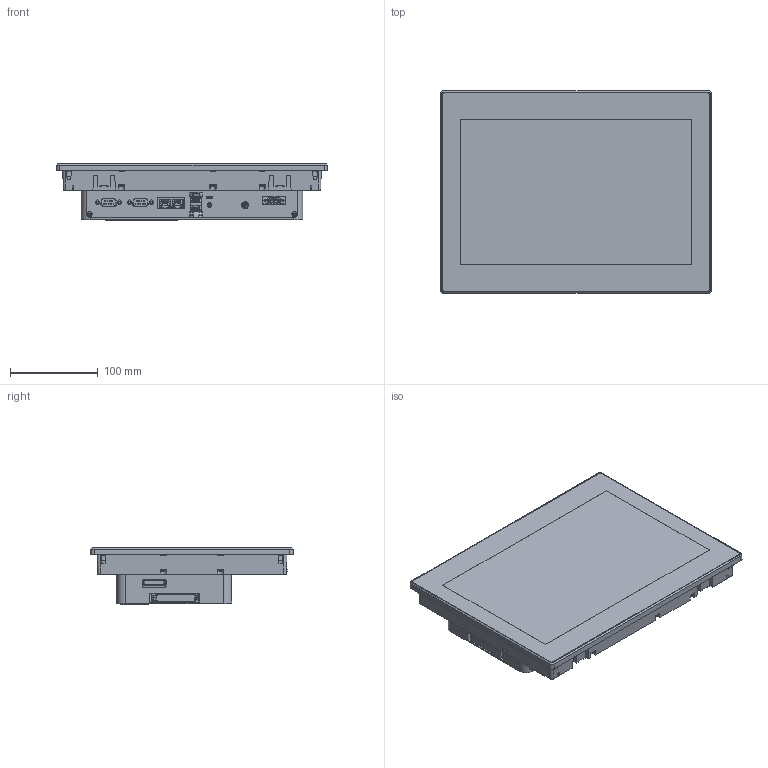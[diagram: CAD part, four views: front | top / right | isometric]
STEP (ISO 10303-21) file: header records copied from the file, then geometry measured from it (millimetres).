
FILE_DESCRIPTION(('STEP AP214'),'1');
FILE_NAME('HMI_12W_WXGA_DC_3D-simpl_TK_UPDATE.stp','2025-10-23T01:58:57',(' '),(' '),'Spatial InterOp 3D',' ',' ');
FILE_SCHEMA(('AUTOMOTIVE_DESIGN { 1 0 10303 214 1 1 1 1 }'));
Length unit declared in the file: metre
Products named in the file (5): HMI_12W_WXGA_DC_3D-simpl_TK_UPDATE; Component13; Component23; Component33
Assembly tree (4 placements, depth 3):
  HMI_12W_WXGA_DC_3D-simpl_TK_UPDATE
    HMI_12W_WXGA_DC_3D-simpl_TK_UPDATE
      Component13
      Component23
      Component33
Bounding box: 308.5 x 230.5 x 64.28 mm (x, y, z)
Volume: 2641365.8 mm3; surface area: 374446.3 mm2
Topology: 3 solids, 13 shells, 2866 faces, 7958 edges, 5193 vertices
Faces by surface type: plane 1661, cylinder 739, cone 214, bspline 162, torus 57, sphere 33
Full cylindrical faces by diameter (mm): 0.99 x18, 2.5 x4, 2.8 x2, 2.845 x4, 3 x11, 4 x4, 4.3 x4, 4.5 x1, 5.6 x17, 6 x6, 6.5 x1, 8 x1, 8.454 x6, 60.708 x1
Entity records: 99393 total; most frequent: CARTESIAN_POINT 27957, ORIENTED_EDGE 15410, DIRECTION 13793, EDGE_CURVE 7705, VERTEX_POINT 5142, LINE 4973, VECTOR 4973, AXIS2_PLACEMENT_3D 4410
